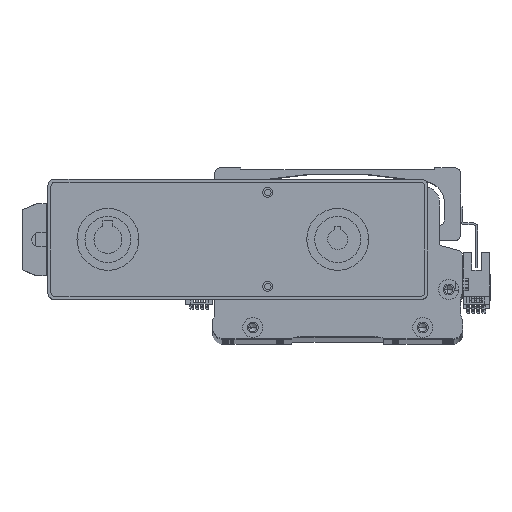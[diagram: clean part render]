
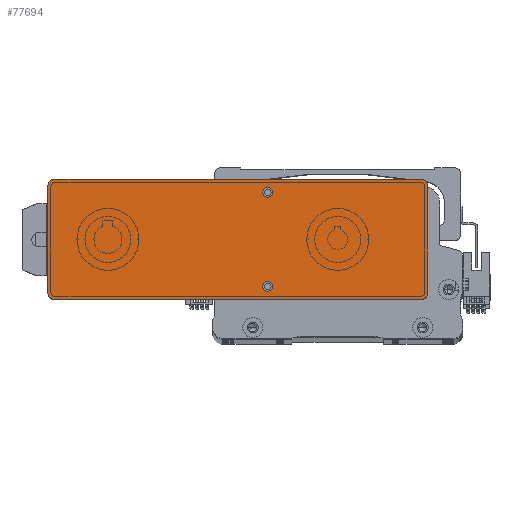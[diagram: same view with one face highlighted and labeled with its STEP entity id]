
A CAD part, top view. The second image highlights one B-rep face of the part: STEP entity #77694.
In plain terms, the highlighted planar face has unit normal (0, 0, 1) as drawn and (0, 0, -1) by its records, which use the part's own axes.
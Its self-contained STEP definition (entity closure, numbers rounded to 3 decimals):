
#1341 = EDGE_CURVE ( 'NONE', #34448, #68493, #66238, .T. ) ;
#1593 = CARTESIAN_POINT ( 'NONE',  ( 92., -27., 0. ) ) ;
#3448 = EDGE_CURVE ( 'NONE', #25086, #63546, #73184, .T. ) ;
#3797 = VERTEX_POINT ( 'NONE', #52059 ) ;
#3860 = AXIS2_PLACEMENT_3D ( 'NONE', #12250, #57773, #19044 ) ;
#5016 = VECTOR ( 'NONE', #34253, 1000. ) ;
#5492 = EDGE_CURVE ( 'NONE', #34966, #12881, #73748, .T. ) ;
#5918 = CARTESIAN_POINT ( 'NONE',  ( -17.5, 23.5, 0. ) ) ;
#7961 = AXIS2_PLACEMENT_3D ( 'NONE', #33024, #78172, #39501 ) ;
#8077 = DIRECTION ( 'NONE',  ( 1., 0., 0. ) ) ;
#8457 = CARTESIAN_POINT ( 'NONE',  ( -95., -30., 0. ) ) ;
#11973 = AXIS2_PLACEMENT_3D ( 'NONE', #52619, #13825, #59092 ) ;
#12096 = DIRECTION ( 'NONE',  ( 0., 0., -1. ) ) ;
#12250 = CARTESIAN_POINT ( 'NONE',  ( 0., 0., 0. ) ) ;
#12283 = FACE_BOUND ( 'NONE', #79792, .T. ) ;
#12881 = VERTEX_POINT ( 'NONE', #82737 ) ;
#13206 = ORIENTED_EDGE ( 'NONE', *, *, #17004, .F. ) ;
#13825 = DIRECTION ( 'NONE',  ( 0., 0., -1. ) ) ;
#13893 = CARTESIAN_POINT ( 'NONE',  ( -12.5, -23.5, 0. ) ) ;
#14607 = CARTESIAN_POINT ( 'NONE',  ( -92., 30., 0. ) ) ;
#14730 = CIRCLE ( 'NONE', #11973, 3. ) ;
#15070 = VERTEX_POINT ( 'NONE', #78068 ) ;
#16504 = DIRECTION ( 'NONE',  ( 0., 0., -1. ) ) ;
#16566 = CIRCLE ( 'NONE', #78460, 2.5 ) ;
#16720 = AXIS2_PLACEMENT_3D ( 'NONE', #27495, #72698, #34004 ) ;
#17004 = EDGE_CURVE ( 'NONE', #79336, #68292, #53838, .T. ) ;
#17018 = AXIS2_PLACEMENT_3D ( 'NONE', #50825, #12096, #57331 ) ;
#17241 = DIRECTION ( 'NONE',  ( 0., 0., -1. ) ) ;
#17252 = EDGE_CURVE ( 'NONE', #39973, #63546, #69949, .T. ) ;
#19044 = DIRECTION ( 'NONE',  ( 1., 0., 0. ) ) ;
#21051 = EDGE_CURVE ( 'NONE', #25086, #15070, #14730, .T. ) ;
#21137 = EDGE_LOOP ( 'NONE', ( #43049, #13206 ) ) ;
#21608 = VECTOR ( 'NONE', #79433, 1000. ) ;
#25086 = VERTEX_POINT ( 'NONE', #28110 ) ;
#26636 = CARTESIAN_POINT ( 'NONE',  ( 92., -30., 0. ) ) ;
#27495 = CARTESIAN_POINT ( 'NONE',  ( 92., 27., 0. ) ) ;
#27497 = ORIENTED_EDGE ( 'NONE', *, *, #5492, .F. ) ;
#28110 = CARTESIAN_POINT ( 'NONE',  ( -92., -30., 0. ) ) ;
#29607 = ORIENTED_EDGE ( 'NONE', *, *, #73277, .F. ) ;
#31529 = FACE_OUTER_BOUND ( 'NONE', #53361, .T. ) ;
#32165 = ORIENTED_EDGE ( 'NONE', *, *, #1341, .T. ) ;
#32361 = DIRECTION ( 'NONE',  ( 0., 1., 0. ) ) ;
#32777 = AXIS2_PLACEMENT_3D ( 'NONE', #1593, #46852, #8077 ) ;
#33024 = CARTESIAN_POINT ( 'NONE',  ( -15., -23.5, 0. ) ) ;
#33815 = CARTESIAN_POINT ( 'NONE',  ( 92., 30., 0. ) ) ;
#33900 = ORIENTED_EDGE ( 'NONE', *, *, #3448, .F. ) ;
#34004 = DIRECTION ( 'NONE',  ( 1., 0., 0. ) ) ;
#34253 = DIRECTION ( 'NONE',  ( 0., -1., 0. ) ) ;
#34448 = VERTEX_POINT ( 'NONE', #34659 ) ;
#34659 = CARTESIAN_POINT ( 'NONE',  ( -95., 27., 0. ) ) ;
#34966 = VERTEX_POINT ( 'NONE', #13893 ) ;
#35831 = CARTESIAN_POINT ( 'NONE',  ( -15., -23.5, 0. ) ) ;
#39373 = ORIENTED_EDGE ( 'NONE', *, *, #21051, .T. ) ;
#39406 = AXIS2_PLACEMENT_3D ( 'NONE', #55981, #17241, #62498 ) ;
#39501 = DIRECTION ( 'NONE',  ( -1., 0., 0. ) ) ;
#39973 = VERTEX_POINT ( 'NONE', #53670 ) ;
#42315 = DIRECTION ( 'NONE',  ( -1., 0., 0. ) ) ;
#43049 = ORIENTED_EDGE ( 'NONE', *, *, #43244, .F. ) ;
#43244 = EDGE_CURVE ( 'NONE', #68292, #79336, #16566, .T. ) ;
#44770 = PLANE ( 'NONE',  #3860 ) ;
#46852 = DIRECTION ( 'NONE',  ( 0., 0., -1. ) ) ;
#48164 = VECTOR ( 'NONE', #76892, 1000. ) ;
#50175 = LINE ( 'NONE', #64234, #48164 ) ;
#50825 = CARTESIAN_POINT ( 'NONE',  ( -15., 23.5, 0. ) ) ;
#50879 = EDGE_CURVE ( 'NONE', #75693, #68493, #50175, .T. ) ;
#52059 = CARTESIAN_POINT ( 'NONE',  ( 95., 27., 0. ) ) ;
#52619 = CARTESIAN_POINT ( 'NONE',  ( -92., -27., 0. ) ) ;
#53361 = EDGE_LOOP ( 'NONE', ( #72152, #67367, #33900, #39373, #29607, #32165, #56409, #74459 ) ) ;
#53670 = CARTESIAN_POINT ( 'NONE',  ( 95., -27., 0. ) ) ;
#53838 = CIRCLE ( 'NONE', #17018, 2.5 ) ;
#54607 = LINE ( 'NONE', #8457, #5016 ) ;
#55299 = CARTESIAN_POINT ( 'NONE',  ( -15., 23.5, 0. ) ) ;
#55981 = CARTESIAN_POINT ( 'NONE',  ( -92., 27., 0. ) ) ;
#56409 = ORIENTED_EDGE ( 'NONE', *, *, #50879, .F. ) ;
#56625 = CARTESIAN_POINT ( 'NONE',  ( -12.5, 23.5, 0. ) ) ;
#57331 = DIRECTION ( 'NONE',  ( -1., 0., 0. ) ) ;
#57458 = LINE ( 'NONE', #64563, #74590 ) ;
#57773 = DIRECTION ( 'NONE',  ( 0., 0., 1. ) ) ;
#59092 = DIRECTION ( 'NONE',  ( 1., 0., 0. ) ) ;
#59245 = EDGE_CURVE ( 'NONE', #12881, #34966, #64948, .T. ) ;
#61795 = DIRECTION ( 'NONE',  ( -1., 0., 0. ) ) ;
#62261 = CIRCLE ( 'NONE', #16720, 3. ) ;
#62498 = DIRECTION ( 'NONE',  ( 1., 0., 0. ) ) ;
#63546 = VERTEX_POINT ( 'NONE', #26636 ) ;
#64234 = CARTESIAN_POINT ( 'NONE',  ( 95., 30., 0. ) ) ;
#64563 = CARTESIAN_POINT ( 'NONE',  ( 95., -30., 0. ) ) ;
#64948 = CIRCLE ( 'NONE', #72671, 2.5 ) ;
#66238 = CIRCLE ( 'NONE', #39406, 3. ) ;
#67367 = ORIENTED_EDGE ( 'NONE', *, *, #17252, .T. ) ;
#68292 = VERTEX_POINT ( 'NONE', #5918 ) ;
#68493 = VERTEX_POINT ( 'NONE', #14607 ) ;
#69503 = EDGE_CURVE ( 'NONE', #39973, #3797, #57458, .T. ) ;
#69949 = CIRCLE ( 'NONE', #32777, 3. ) ;
#70103 = ORIENTED_EDGE ( 'NONE', *, *, #59245, .F. ) ;
#72152 = ORIENTED_EDGE ( 'NONE', *, *, #69503, .F. ) ;
#72671 = AXIS2_PLACEMENT_3D ( 'NONE', #35831, #80951, #42315 ) ;
#72698 = DIRECTION ( 'NONE',  ( 0., 0., -1. ) ) ;
#72994 = CARTESIAN_POINT ( 'NONE',  ( 95., -30., 0. ) ) ;
#73184 = LINE ( 'NONE', #72994, #21608 ) ;
#73277 = EDGE_CURVE ( 'NONE', #34448, #15070, #54607, .T. ) ;
#73748 = CIRCLE ( 'NONE', #7961, 2.5 ) ;
#74459 = ORIENTED_EDGE ( 'NONE', *, *, #76251, .T. ) ;
#74590 = VECTOR ( 'NONE', #32361, 1000. ) ;
#75693 = VERTEX_POINT ( 'NONE', #33815 ) ;
#76251 = EDGE_CURVE ( 'NONE', #75693, #3797, #62261, .T. ) ;
#76892 = DIRECTION ( 'NONE',  ( -1., 0., 0. ) ) ;
#77694 = ADVANCED_FACE ( 'NONE', ( #80980, #31529, #12283 ), #44770, .F. ) ;
#78068 = CARTESIAN_POINT ( 'NONE',  ( -95., -27., 0. ) ) ;
#78172 = DIRECTION ( 'NONE',  ( 0., 0., -1. ) ) ;
#78460 = AXIS2_PLACEMENT_3D ( 'NONE', #55299, #16504, #61795 ) ;
#79336 = VERTEX_POINT ( 'NONE', #56625 ) ;
#79433 = DIRECTION ( 'NONE',  ( 1., 0., 0. ) ) ;
#79792 = EDGE_LOOP ( 'NONE', ( #70103, #27497 ) ) ;
#80951 = DIRECTION ( 'NONE',  ( 0., 0., -1. ) ) ;
#80980 = FACE_BOUND ( 'NONE', #21137, .T. ) ;
#82737 = CARTESIAN_POINT ( 'NONE',  ( -17.5, -23.5, 0. ) ) ;
